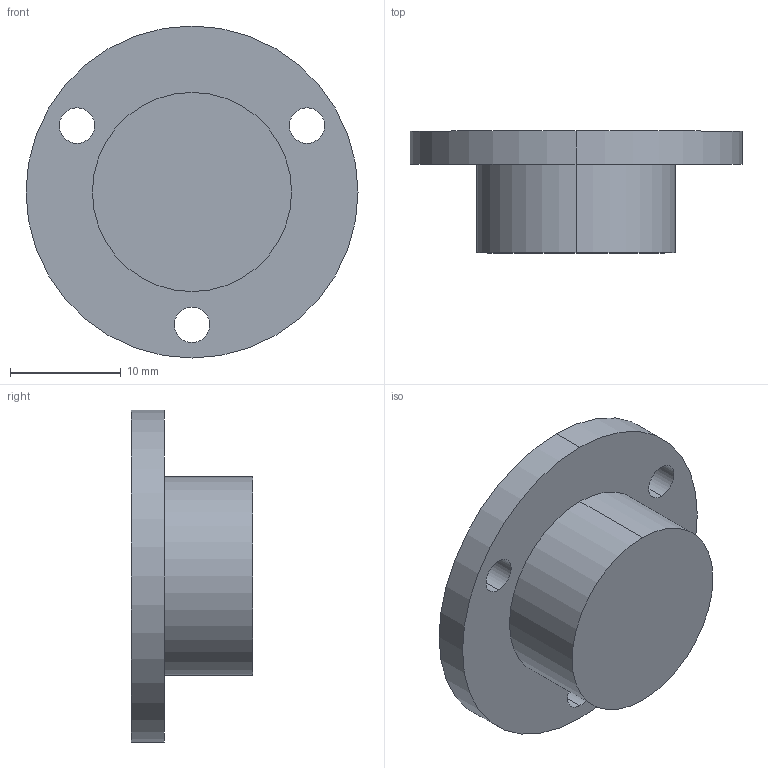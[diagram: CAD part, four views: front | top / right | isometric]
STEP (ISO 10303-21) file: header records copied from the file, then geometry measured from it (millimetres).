
FILE_DESCRIPTION (( 'STEP AP214' ), '1' );
FILE_NAME ('2277-ALS-30-K-30-B.step', '2020-03-26T09:48:29', ( '' ), ( '' ), 'SwSTEP 2.0', 'SolidWorks 2019', '' );
FILE_SCHEMA (( 'AUTOMOTIVE_DESIGN' ));
Length unit declared in the file: millimetre
Products named in the file (1): 2277-ALS-30-K-30-B
Bounding box: 30 x 11 x 30 mm (x, y, z)
Volume: 3928.3 mm3; surface area: 2254.9 mm2
Topology: 1 solids, 1 shells, 28 faces, 60 edges, 38 vertices
Faces by surface type: cylinder 18, plane 6, torus 2, cone 2
Entity records: 855 total; most frequent: DIRECTION 158, CARTESIAN_POINT 127, ORIENTED_EDGE 120, AXIS2_PLACEMENT_3D 69, EDGE_CURVE 60, CIRCLE 40, EDGE_LOOP 38, VERTEX_POINT 38
